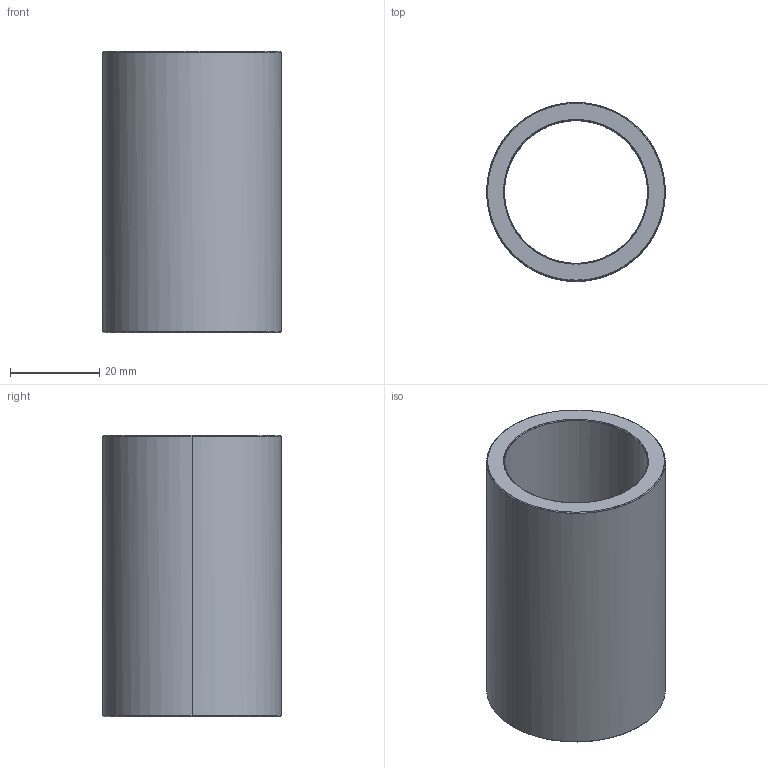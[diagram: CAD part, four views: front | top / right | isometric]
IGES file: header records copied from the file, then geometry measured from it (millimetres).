
Start section: Write IGES format                                    datakit 2008 (c)
Global section: file name: Unknown; native system: DATAKIT Converter; preprocessor: Unknown; author: Unknown; organization: Unknown; date: 950613.180003; units: millimetre
Bounding box: 40 x 39.99 x 63 mm (x, y, z)
Surface area: 15102 mm2 (no closed solid volume)
Topology: 0 solids, 0 shells, 14 faces, 56 edges, 56 vertices
Faces by surface type: revolution 12, bspline 2
